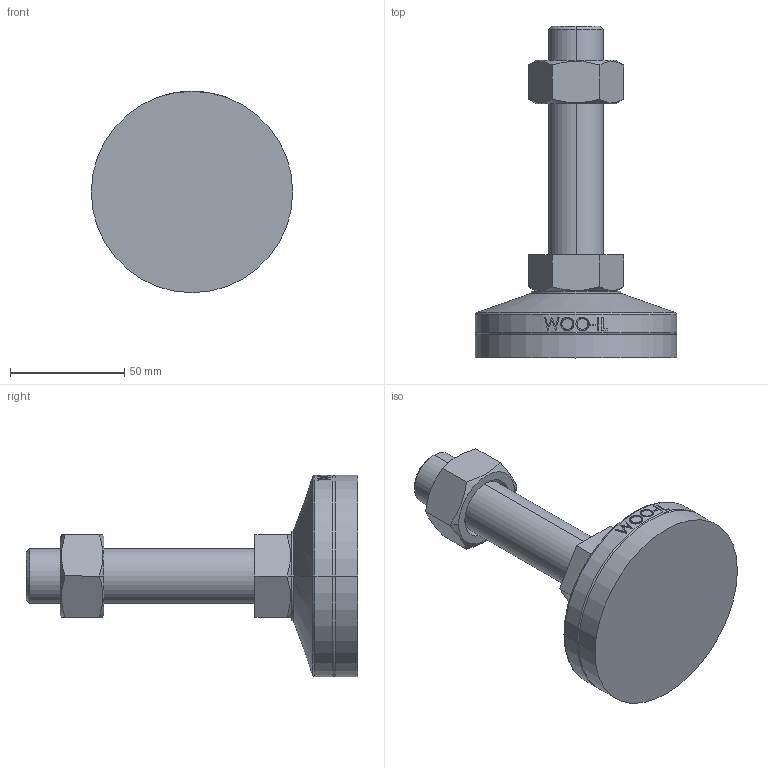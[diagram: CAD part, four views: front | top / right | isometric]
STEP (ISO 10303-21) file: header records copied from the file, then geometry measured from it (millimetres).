
FILE_DESCRIPTION (( 'STEP AP214' ), '1' );
FILE_NAME ('MFTR88-M24-100.step', '2021-02-08T08:39:10', ( '' ), ( '' ), 'SwSTEP 2.0', 'SolidWorks 2019', '' );
FILE_SCHEMA (( 'AUTOMOTIVE_DESIGN' ));
Length unit declared in the file: millimetre
Products named in the file (2): MFTR88-M24-100
Bounding box: 88 x 145 x 88 mm (x, y, z)
Volume: 223668.3 mm3; surface area: 46443.4 mm2
Topology: 4 solids, 4 shells, 103 faces, 235 edges, 150 vertices
Faces by surface type: plane 49, cylinder 18, bspline 16, cone 14, torus 6
Entity records: 4433 total; most frequent: CARTESIAN_POINT 2160, ORIENTED_EDGE 470, DIRECTION 417, EDGE_CURVE 235, AXIS2_PLACEMENT_3D 159, VERTEX_POINT 150, EDGE_LOOP 115, ADVANCED_FACE 103
